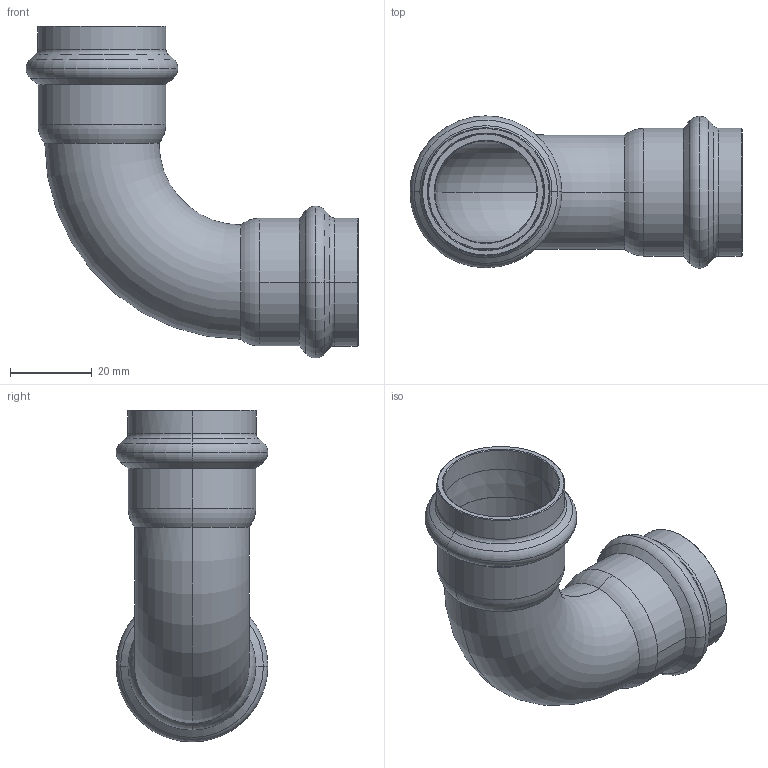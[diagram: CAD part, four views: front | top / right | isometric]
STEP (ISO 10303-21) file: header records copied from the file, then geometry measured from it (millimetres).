
FILE_DESCRIPTION(('CoCreate Modeling STEP Export'),'2;1');
FILE_NAME('8002VW28.stp','2013-01-29T13:45:37',(''),(''),'CoCreate Modeling STEP processor for AP214 (Solid Model)','CoCreate Modeling 17.00A 17-Jun-2010 (C) Parametric Technology GmbH','');
FILE_SCHEMA(('AUTOMOTIVE_DESIGN { 1 0 10303 214 1 1 1 1 }'));
Length unit declared in the file: millimetre
Products named in the file (2): 8002VW28
Assembly tree (1 placements, depth 2):
  8002VW28
    8002VW28
Bounding box: 81.34 x 37.2 x 81.34 mm (x, y, z)
Volume: 18271.6 mm3; surface area: 21127.3 mm2
Topology: 1 solids, 1 shells, 80 faces, 180 edges, 108 vertices
Faces by surface type: torus 32, cylinder 20, cone 20, plane 8
Entity records: 2407 total; most frequent: CARTESIAN_POINT 860, ORIENTED_EDGE 360, DIRECTION 278, EDGE_CURVE 180, AXIS2_PLACEMENT_3D 119, VERTEX_POINT 108, EDGE_LOOP 88, FACE_OUTER_BOUND 80
